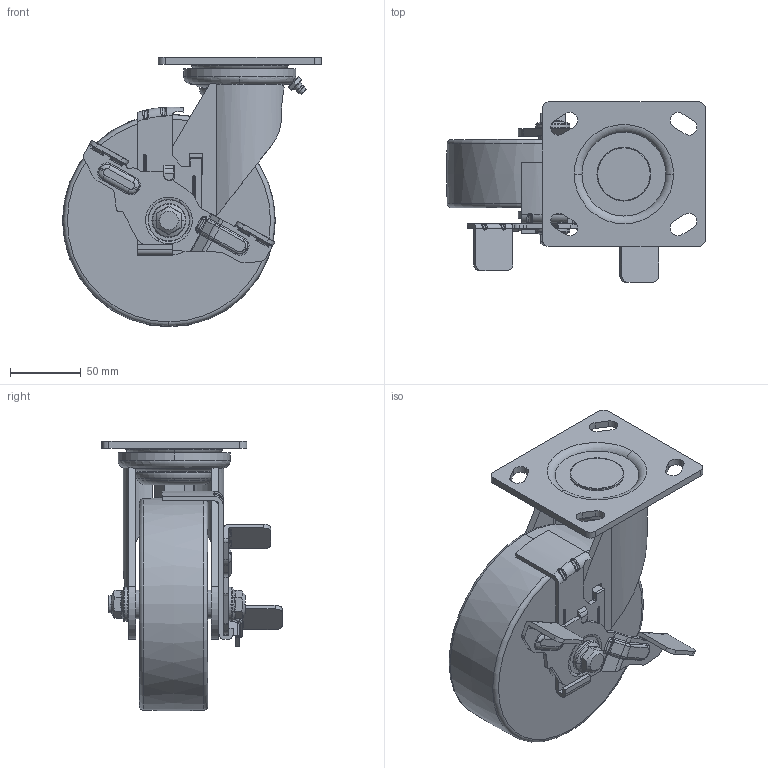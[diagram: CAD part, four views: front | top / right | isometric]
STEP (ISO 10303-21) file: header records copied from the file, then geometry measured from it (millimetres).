
FILE_DESCRIPTION((''),'2;1');
FILE_NAME('PM-150-BSF-MCD.stp','2013-04-30T11:17:18',(''),(''),'Mechanical Desktop 2009','Mechanical Desktop 2009',', , ');
FILE_SCHEMA(('CONFIG_CONTROL_DESIGN'));
Length unit declared in the file: millimetre
Products named in the file (2): PM-150-BSF-MCD; SF PLATE
Assembly tree (1 placements, depth 2):
  PM-150-BSF-MCD
    SF PLATE
Bounding box: 182.5 x 127 x 189.95 mm (x, y, z)
Volume: 1099738.4 mm3; surface area: 149509.7 mm2
Topology: 1 solids, 1 shells, 648 faces, 1657 edges, 994 vertices
Faces by surface type: bspline 211, cylinder 194, plane 174, torus 49, cone 20
Entity records: 28453 total; most frequent: CARTESIAN_POINT 13446, ORIENTED_EDGE 3242, DIRECTION 3047, EDGE_CURVE 1621, AXIS2_PLACEMENT_3D 1219, VERTEX_POINT 992, EDGE_LOOP 687, CIRCLE 668
